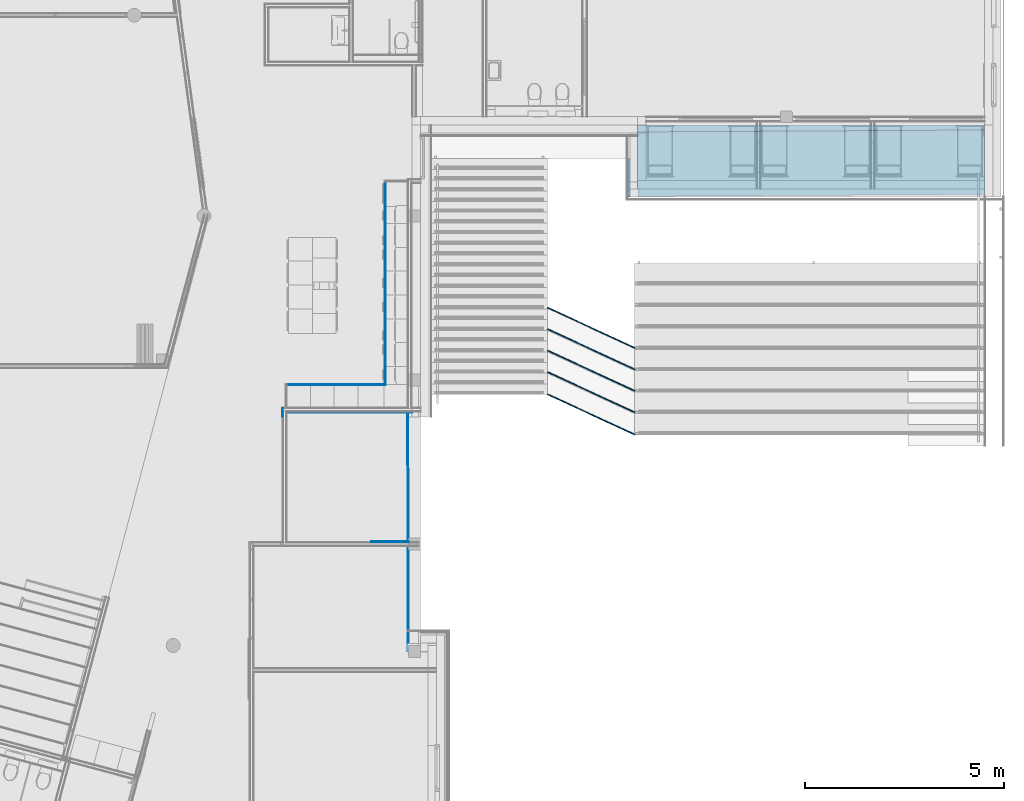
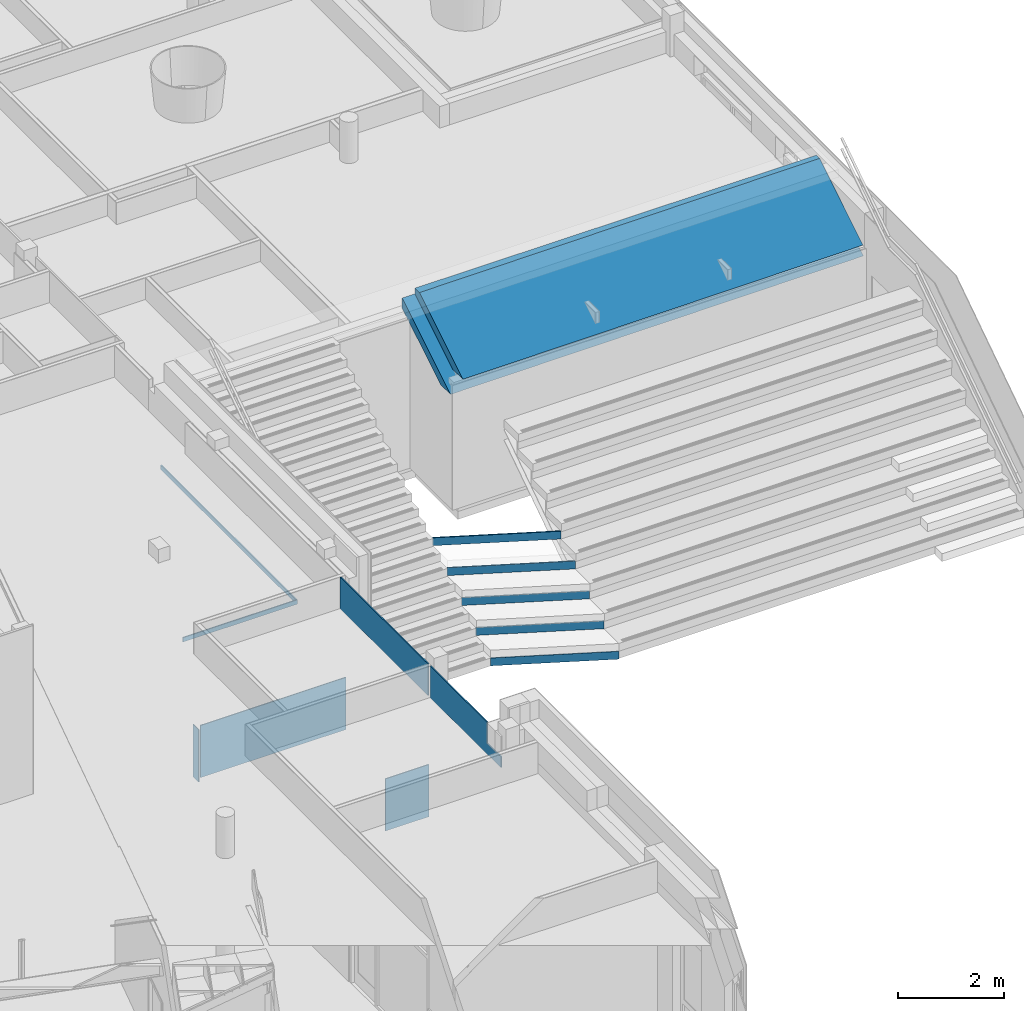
# One storey, part 19 of 167: 13 walls.
"""IFC2X3 building model written with IfcOpenShell, lengths in millimetres."""

from ifc_helpers import new_model, entity, si_unit, converted_unit, derived_unit, money_unit, direction, frame, origin_with_axes, place, context, subcontext, project, spatial, faceted_brep, material, type_object, element, save


model = new_model("IFC2X3")

# Units and contexts
model_context = context("Model", 3, precision=0.01, world=origin_with_axes(), true_north=direction((0.0, 1.0)))
plan_context = context("Plan", 3, precision=0.01, world=origin_with_axes(), true_north=direction((0.0, 1.0)))
body_context = subcontext(model_context, "Body", "Model", "MODEL_VIEW")
ifc_project = project(units=[si_unit("LENGTHUNIT", "METRE", prefix="MILLI"), si_unit("AREAUNIT", "SQUARE_METRE"), si_unit("VOLUMEUNIT", "CUBIC_METRE"), converted_unit("PLANEANGLEUNIT", "DEGREE", entity("IfcPlaneAngleMeasure", 0.0174532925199), si_unit("PLANEANGLEUNIT", "RADIAN"), dimensions=[0, 0, 0, 0, 0, 0, 0]), si_unit("SOLIDANGLEUNIT", "STERADIAN"), money_unit("EUR"), converted_unit("TIMEUNIT", "Year", entity("IfcTimeMeasure", 31556926.0), si_unit("TIMEUNIT", "SECOND"), dimensions=[0, 0, 1, 0, 0, 0, 0]), si_unit("MASSUNIT", "GRAM", prefix="KILO"), si_unit("THERMODYNAMICTEMPERATUREUNIT", "DEGREE_CELSIUS"), si_unit("LUMINOUSINTENSITYUNIT", "LUMEN"), si_unit("ENERGYUNIT", "JOULE", prefix="MEGA"), derived_unit("THERMALCONDUCTANCEUNIT", [(si_unit("POWERUNIT", "WATT"), 1), (si_unit("LENGTHUNIT", "METRE"), -1), (si_unit("THERMODYNAMICTEMPERATUREUNIT", "KELVIN"), -1)]), derived_unit("SPECIFICHEATCAPACITYUNIT", [(si_unit("ENERGYUNIT", "JOULE"), 1), (si_unit("MASSUNIT", "GRAM", prefix="KILO"), -1), (si_unit("THERMODYNAMICTEMPERATUREUNIT", "KELVIN"), -1)]), derived_unit("MASSDENSITYUNIT", [(si_unit("MASSUNIT", "GRAM", prefix="KILO"), 1), (si_unit("VOLUMEUNIT", "CUBIC_METRE"), -1)])], contexts=[model_context, plan_context])

# Site, building, storey
site_placement = place(None, origin_with_axes())
site = spatial("IfcSite", under=ifc_project, at=site_placement, Name="Site", CompositionType="ELEMENT")
building_placement = place(site_placement, origin_with_axes())
building = spatial("IfcBuilding", under=site, at=building_placement, Name="Naam gebouw", CompositionType="ELEMENT")
storey_placement = place(building_placement, origin_with_axes())
storey = spatial("IfcBuildingStorey", under=building, at=storey_placement, Name="Begane grond", CompositionType="ELEMENT", Elevation=0.0)

# Walls
ifc_material_1 = material(Name="Hout - Spaanplaat")
wall_type_1 = type_object("IfcWallType", Name="Hout - Spaanplaat 25", PredefinedType="NOTDEFINED")
wall_1_placement = place(storey_placement, frame((28506.5706078, 17851.1468252, 2800.0), z_axis=(0.0, 0.0, 1.0), x_axis=(-0.00233176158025, 0.99999728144, 0.0)))
element("IfcWall", 1, at=wall_1_placement, inside=storey, type_object=wall_type_1, material=ifc_material_1, Name="21_Wand_Wand-x", context=body_context, shape_type="Brep", body=[
    faceted_brep([(2661.36040982, 0.0, 730.0), (522.854596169, 0.0, 730.0), (522.854596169, 0.0, 250.0), (0.0, 0.0, 250.0), (0.0, 0.0, 0.0), (2661.36040982, 0.0, 0.0), (2661.41870402, 25.0, 730.0), (522.912890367, 25.0, 730.0), (522.912890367, 25.0, 250.0), (0.0, 25.0, 250.0), (0.0, 25.0, 0.0), (2661.41870402, 25.0, 0.0)], [[[0, 1, 2, 3, 4, 5]], [[6, 7, 1, 0]], [[8, 2, 1, 7]], [[9, 3, 2, 8]], [[4, 3, 9, 10]], [[10, 11, 5, 4]], [[0, 5, 11, 6]], [[9, 8, 7, 6, 11, 10]]]),
    faceted_brep([(2736.41890792, 25.0, 0.0), (6028.10185066, 25.0, 0.0), (6028.10185066, 0.0, 0.0), (2736.36061372, 0.0, 0.0), (2736.41890792, 25.0, 730.0), (6028.10185066, 25.0, 730.0), (6028.10185066, 0.0, 730.0), (2736.36061372, 0.0, 730.0)], [[[0, 1, 2, 3]], [[4, 5, 1, 0]], [[2, 1, 5, 6]], [[3, 2, 6, 7]], [[4, 0, 3, 7]], [[7, 6, 5, 4]]]),
])
wall_2_placement = place(storey_placement, frame((27925.0, 24566.7322881, 2700.0), z_axis=(0.0, 0.0, 1.0), x_axis=(0.0, 1.0, 0.0)))
element("IfcWall", 2, at=wall_2_placement, inside=storey, type_object=wall_type_1, material=ifc_material_1, Name="21_Wand_Wand-x", context=body_context, shape_type="Brep", body=[
    faceted_brep([(0.0, 0.0, 2.0), (4500.0, 0.0, 2.0), (4500.0, 0.0, 0.0), (5095.0, 0.0, 0.0), (5095.0, 0.0, 100.0), (0.0, 0.0, 100.0), (4500.0, 25.0, 2.0), (0.0, 25.0, 2.0), (4500.0, 25.0, 0.0), (5095.0, 25.0, 0.0), (5095.0, 25.0, 100.0), (0.0, 25.0, 100.0)], [[[0, 1, 2, 3, 4, 5]], [[6, 1, 0, 7]], [[8, 2, 1, 6]], [[3, 2, 8, 9]], [[4, 3, 9, 10]], [[5, 4, 10, 11]], [[11, 7, 0, 5]], [[8, 6, 7, 11, 10, 9]]]),
])
wall_3_placement = place(storey_placement, frame((25430.0, 24541.7322881, 2700.0), z_axis=(0.0, 0.0, 1.0), x_axis=(1.0, 0.0, 0.0)))
element("IfcWall", 3, at=wall_3_placement, inside=storey, type_object=wall_type_1, material=ifc_material_1, Name="21_Wand_Wand-x", context=body_context, shape_type="Brep", body=[
    faceted_brep([(0.0, 25.0, 0.0), (2495.0, 25.0, 0.0), (2495.0, 0.0, 0.0), (0.0, 0.0, 0.0), (0.0, 25.0, 100.0), (2495.0, 25.0, 100.0), (2495.0, 0.0, 100.0), (0.0, 0.0, 100.0)], [[[0, 1, 2, 3]], [[4, 5, 1, 0]], [[2, 1, 5, 6]], [[3, 2, 6, 7]], [[4, 0, 3, 7]], [[7, 6, 5, 4]]]),
])
ifc_material_2 = material(Name="Isolatie - Glaswol zacht")
wall_type_2 = type_object("IfcWallType", Name="Isolatie - Glaswol zacht 200", PredefinedType="NOTDEFINED")
wall_4_placement = place(storey_placement, frame((42990.7301486, 29720.9786407, 2765.85129299), z_axis=(0.0, 0.0, 1.0), x_axis=(-0.999984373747, -0.00559037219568, 0.0)))
element("IfcWall", 4, at=wall_4_placement, inside=storey, type_object=wall_type_2, material=ifc_material_2, Name="21_Wand_Wand-x", context=body_context, shape_type="Brep", body=[
    faceted_brep([(0.0, -1365.04246373, 852.973199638), (0.0, -1365.04246373, 1014.14870701), (0.0, -1245.56121045, 1014.14870701), (0.0, 377.41598296, 0.0), (0.0, 0.0, 0.0), (8729.7994616, -1413.84605453, 883.469067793), (8729.7994616, -1413.84605453, 1014.14870701), (8729.7994616, -1245.56121045, 1014.14870701), (8729.7994616, 377.41598296, 0.0), (8729.7994616, 0.0, 0.0)], [[[0, 1, 2, 3, 4]], [[5, 6, 1, 0]], [[6, 7, 2, 1]], [[3, 2, 7, 8]], [[4, 3, 8, 9]], [[5, 0, 4, 9]], [[8, 7, 6, 5, 9]]]),
])
ifc_material_3 = material(Name="Beton gewapend prefab vloer")
wall_type_3 = type_object("IfcWallType", Name="Beton gewapend prefab vloer 200", PredefinedType="NOTDEFINED")
wall_5_placement = place(storey_placement, frame((42990.7972477, 29708.9762104, 2522.51554428), z_axis=(0.0, 0.0, 1.0), x_axis=(-0.999984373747, -0.00559037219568, 0.0)))
element("IfcWall", 5, at=wall_5_placement, inside=storey, type_object=wall_type_3, material=ifc_material_3, Name="21_Wand_Wand-x", context=body_context, shape_type="Brep", body=[
    faceted_brep([(0.0, 0.0, 0.0), (0.0, -1377.04508158, 860.473267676), (0.0, -1377.04508158, 1096.30894835), (0.0, 377.41598296, 0.0), (9006.33420497, 0.0, 0.0), (9006.33420497, -1427.39462868, 891.935156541), (9006.33420497, -1427.39462868, 1127.77083721), (9006.33420497, 377.41598296, 0.0)], [[[0, 1, 2, 3]], [[4, 5, 1, 0]], [[6, 2, 1, 5]], [[3, 2, 6, 7]], [[0, 3, 7, 4]], [[6, 5, 4, 7]]]),
])
wall_type_4 = type_object("IfcWallType", Name="Hout - Spaanplaat 20", PredefinedType="NOTDEFINED")
wall_6_placement = place(storey_placement, frame((25334.4423139, 23751.7865001, 0.0), z_axis=(0.0, 0.0, 1.0), x_axis=(0.0, 1.0, 0.0)))
element("IfcWall", 6, at=wall_6_placement, inside=storey, type_object=wall_type_4, material=ifc_material_1, Name="21_Wand_Wand-x", context=body_context, shape_type="Brep", body=[
    faceted_brep([(0.0, 20.0, 0.0), (214.945788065, 20.0, 0.0), (214.945788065, 0.0, 0.0), (0.0, 0.0, 0.0), (0.0, 20.0, 1200.0), (214.945788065, 20.0, 1200.0), (214.945788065, 0.0, 1200.0), (0.0, 0.0, 1200.0)], [[[0, 1, 2, 3]], [[4, 5, 1, 0]], [[2, 1, 5, 6]], [[3, 2, 6, 7]], [[4, 0, 3, 7]], [[7, 6, 5, 4]]]),
])
wall_7_placement = place(storey_placement, frame((28800.0, 23879.2322881, 0.0), z_axis=(0.0, 0.0, 1.0), x_axis=(-1.0, 0.0, 0.0)))
element("IfcWall", 7, at=wall_7_placement, inside=storey, type_object=wall_type_4, material=ifc_material_1, Name="21_Wand_Wand-x", context=body_context, shape_type="Brep", body=[
    faceted_brep([(3378.05768609, 20.0, 0.0), (3378.05768609, 0.0, 0.0), (214.0, 0.0, 0.0), (214.0, 20.0, 0.0), (3378.05768609, 20.0, 1200.0), (3378.05768609, 0.0, 1200.0), (214.0, 0.0, 1200.0), (214.0, 20.0, 1200.0)], [[[0, 1, 2, 3]], [[1, 0, 4, 5]], [[1, 5, 6, 2]], [[7, 3, 2, 6]], [[4, 0, 3, 7]], [[5, 4, 7, 6]]]),
])
wall_8_placement = place(storey_placement, frame((27559.4423139, 20600.0, 0.0), z_axis=(0.0, 0.0, 1.0), x_axis=(1.0, 0.0, 0.0)))
element("IfcWall", 8, at=wall_8_placement, inside=storey, type_object=wall_type_4, material=ifc_material_1, Name="21_Wand_Wand-x", context=body_context, shape_type="Brep", body=[
    faceted_brep([(0.0, 20.0, 0.0), (940.557686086, 20.0, 0.0), (940.557686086, 0.0, 0.0), (0.0, 0.0, 0.0), (0.0, 20.0, 1200.0), (940.557686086, 20.0, 1200.0), (940.557686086, 0.0, 1200.0), (0.0, 0.0, 1200.0)], [[[0, 1, 2, 3]], [[4, 5, 1, 0]], [[2, 1, 5, 6]], [[3, 2, 6, 7]], [[4, 0, 3, 7]], [[7, 6, 5, 4]]]),
])
wall_type_5 = type_object("IfcWallType", Name="Beton gewapend prefab vloer 25", PredefinedType="NOTDEFINED")
for number, where, z_axis, x_axis, name in (
    (9, (31985.9978649, 25948.0128651, 1080.0), (0.0, 0.0, 1.0), (0.907720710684, -0.4195749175, 0.0), "21_Wand_Wand-x"),
    (10, (31986.0014652, 26488.0128651, 1440.0), (0.0, 0.0, 1.0), (0.907720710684, -0.4195749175, 0.0), "21_Wand_Wand-x"),
    (11, (31985.9942647, 25408.0128651, 720.0), (0.0, 0.0, 1.0), (0.907720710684, -0.4195749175, 0.0), "21_Wand_Wand-x"),
    (12, (31985.9906644, 24868.0128651, 360.0), (0.0, 0.0, 1.0), (0.907720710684, -0.4195749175, 0.0), "21_Wand_Wand-x"),
    (13, (31985.9978649, 24308.0128651, 0.0), (0.0, 0.0, 1.0), (0.907720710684, -0.4195749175, 0.0), "21_Wand_Wand-x"),
):
    element("IfcWall", number, at=place(storey_placement, frame(where, z_axis=z_axis, x_axis=x_axis)), inside=storey, type_object=wall_type_5, material=ifc_material_3, Name=name, context=body_context, shape_type="Brep", body=[
        faceted_brep([(0.0, 25.0, 0.0), (2423.66501966, 25.0, 0.0), (2423.66501966, 0.0, 0.0), (0.0, 0.0, 0.0), (0.0, 25.0, 180.0), (2423.66501966, 25.0, 180.0), (2423.66501966, 0.0, 180.0), (0.0, 0.0, 180.0)], [[[0, 1, 2, 3]], [[4, 5, 1, 0]], [[2, 1, 5, 6]], [[3, 2, 6, 7]], [[4, 0, 3, 7]], [[7, 6, 5, 4]]]),
    ])

save(model, "model.ifc")
